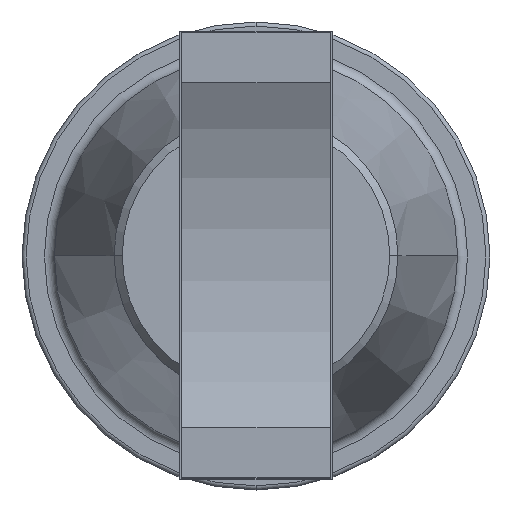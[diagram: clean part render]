
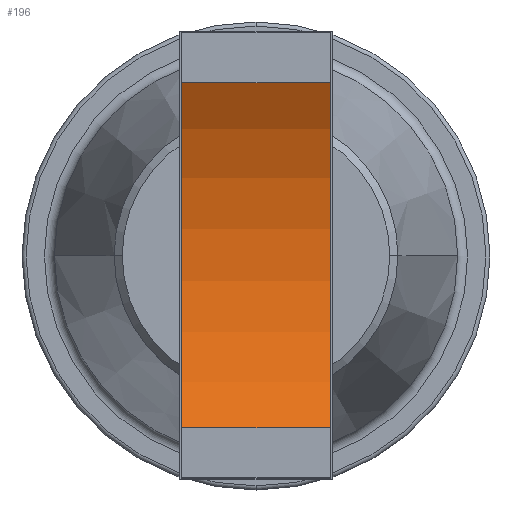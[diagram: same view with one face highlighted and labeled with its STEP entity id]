
A CAD part, top view. The second image highlights one B-rep face of the part: STEP entity #196.
In plain terms, the highlighted cylindrical face has radius 161.95 mm (diameter 323.9 mm), a partial arc.
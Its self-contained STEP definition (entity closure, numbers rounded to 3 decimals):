
#196=ADVANCED_FACE('',(#475),#476,.F.);
#475=FACE_OUTER_BOUND('',#876,.T.);
#476=CYLINDRICAL_SURFACE('',#877,161.95);
#876=EDGE_LOOP('',(#1251,#1252,#1253,#1254));
#877=AXIS2_PLACEMENT_3D('',#1255,#1256,#1257);
#1251=ORIENTED_EDGE('',*,*,#2282,.T.);
#1252=ORIENTED_EDGE('',*,*,#2283,.F.);
#1253=ORIENTED_EDGE('',*,*,#2284,.T.);
#1254=ORIENTED_EDGE('',*,*,#2279,.T.);
#1255=CARTESIAN_POINT('',(448.763,496.677,193.475));
#1256=DIRECTION('',(-1.0,0.,0.));
#1257=DIRECTION('',(0.,-1.0,0.));
#2279=EDGE_CURVE('',#2689,#2687,#2690,.T.);
#2282=EDGE_CURVE('',#2687,#2693,#2694,.T.);
#2283=EDGE_CURVE('',#2695,#2693,#2696,.T.);
#2284=EDGE_CURVE('',#2695,#2689,#2697,.T.);
#2687=VERTEX_POINT('',#3278);
#2689=VERTEX_POINT('',#3281);
#2690=LINE('',#3282,#3283);
#2693=VERTEX_POINT('',#3287);
#2694=CIRCLE('',#3288,161.95);
#2695=VERTEX_POINT('',#3289);
#2696=LINE('',#3290,#3291);
#2697=CIRCLE('',#3292,161.95);
#3278=CARTESIAN_POINT('',(375.763,581.516,55.525));
#3281=CARTESIAN_POINT('',(448.763,581.516,55.525));
#3282=CARTESIAN_POINT('',(448.763,581.516,55.525));
#3283=VECTOR('',#4575,1.0);
#3287=CARTESIAN_POINT('',(375.763,411.838,55.525));
#3288=AXIS2_PLACEMENT_3D('',#4577,#4578,#4579);
#3289=CARTESIAN_POINT('',(448.763,411.838,55.525));
#3290=CARTESIAN_POINT('',(448.763,411.838,55.525));
#3291=VECTOR('',#4580,1.0);
#3292=AXIS2_PLACEMENT_3D('',#4581,#4582,#4583);
#4575=DIRECTION('',(-1.0,0.,0.));
#4577=CARTESIAN_POINT('',(375.763,496.677,193.475));
#4578=DIRECTION('',(-1.0,0.,0.));
#4579=DIRECTION('',(0.,-1.0,0.));
#4580=DIRECTION('',(-1.0,0.,0.));
#4581=CARTESIAN_POINT('',(448.763,496.677,193.475));
#4582=DIRECTION('',(1.0,0.,0.));
#4583=DIRECTION('',(0.,-1.0,0.));
